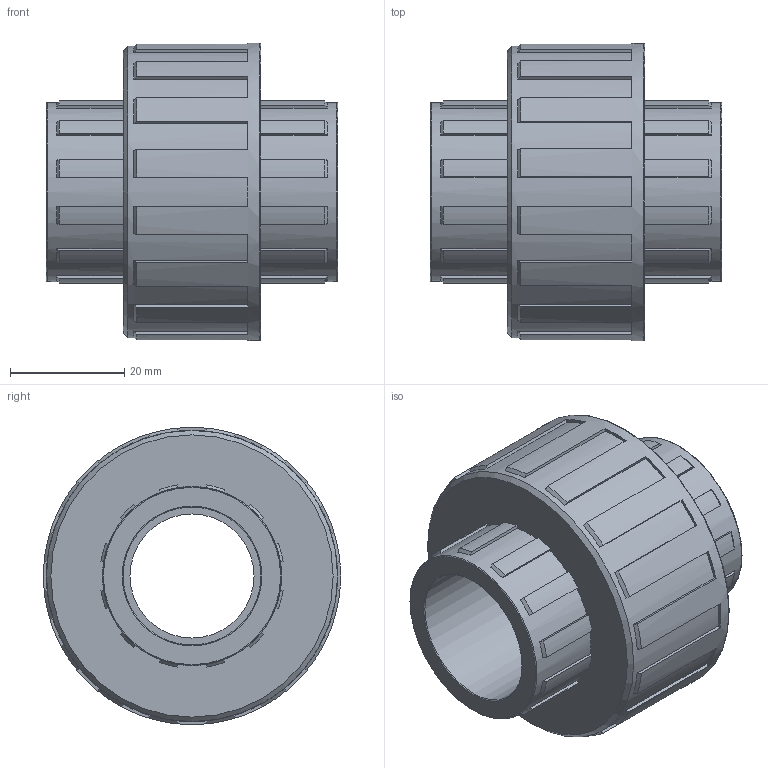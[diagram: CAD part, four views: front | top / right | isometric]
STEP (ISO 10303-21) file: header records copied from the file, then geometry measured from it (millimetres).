
FILE_DESCRIPTION(/* description */ ('PLASSON THR.UNION+O RING PVC 3/4'''''),/* implementation_level */ '2;1');
FILE_NAME(/* name */ 'C:\Dropbox\KIMPROJECTS-Inventor\99-16-3568-Processing\PVC Catalog 2017\050801\050801007.ipt.stp',/* time_stamp */ '2017-12-07T15:58:02+02:00',/* author */ ('KIM'),/* organization */ (''),/* preprocessor_version */ 'ST-DEVELOPER v15.6',/* originating_system */ 'Autodesk Inventor 2015',/* authorisation */ '');
FILE_SCHEMA (('AUTOMOTIVE_DESIGN { 1 0 10303 214 3 1 1 }'));
Length unit declared in the file: millimetre
Products named in the file (1): 050801007
Bounding box: 51 x 52 x 52 mm (x, y, z)
Volume: 49166.4 mm3; surface area: 14264.4 mm2
Topology: 1 solids, 1 shells, 179 faces, 513 edges, 340 vertices
Faces by surface type: plane 102, cone 41, cylinder 31, torus 5
Full cylindrical faces by diameter (mm): 21.705 x1, 24.117 x2, 31.347 x2, 50.96 x1, 52 x1
Entity records: 5822 total; most frequent: DIRECTION 1032, CARTESIAN_POINT 1012, ORIENTED_EDGE 992, EDGE_CURVE 496, AXIS2_PLACEMENT_3D 356, VERTEX_POINT 336, LINE 320, VECTOR 320
